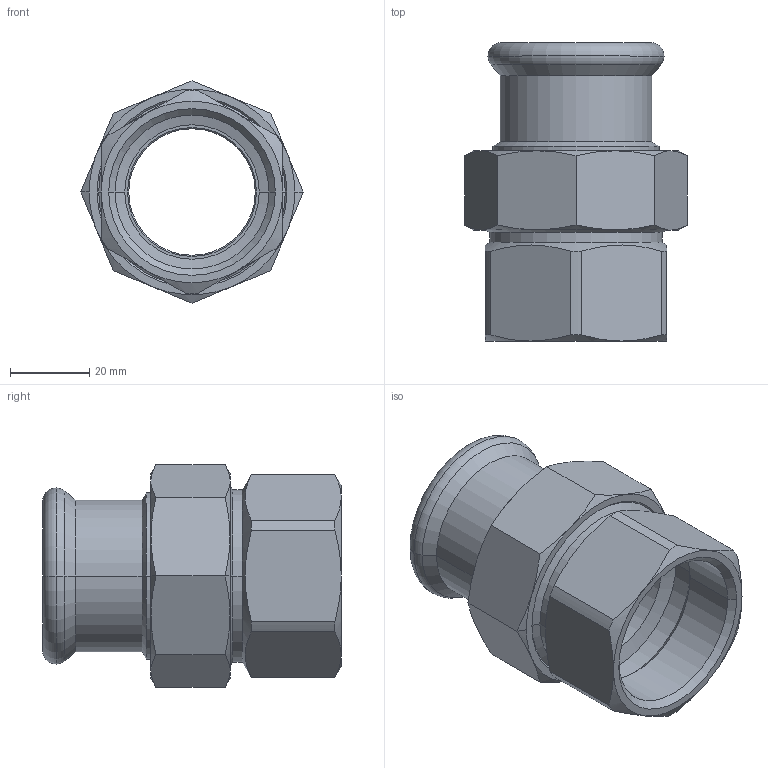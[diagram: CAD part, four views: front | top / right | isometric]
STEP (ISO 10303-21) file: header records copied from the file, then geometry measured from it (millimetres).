
FILE_DESCRIPTION(('CoCreate Modeling STEP Export'),'2;1');
FILE_NAME('C1444 35xRp1 1-4.stp','2014-11-12T16:46:17',(''),(''),'CoCreate Modeling STEP processor for AP214 (Solid Model)','CoCreate Modeling 17.00A 17-Jun-2010 (C) Parametric Technology GmbH','');
FILE_SCHEMA(('AUTOMOTIVE_DESIGN { 1 0 10303 214 1 1 1 1 }'));
Length unit declared in the file: millimetre
Products named in the file (2): C1444_35xRp1_1-4
Assembly tree (1 placements, depth 2):
  C1444_35xRp1_1-4
    C1444_35xRp1_1-4
Bounding box: 56.28 x 75.5 x 56.28 mm (x, y, z)
Volume: 48926.3 mm3; surface area: 26601.1 mm2
Topology: 1 solids, 1 shells, 112 faces, 242 edges, 138 vertices
Faces by surface type: cone 52, cylinder 30, plane 22, torus 8
Entity records: 4555 total; most frequent: CARTESIAN_POINT 2562, ORIENTED_EDGE 484, DIRECTION 278, EDGE_CURVE 242, VERTEX_POINT 138, EDGE_LOOP 120, FACE_OUTER_BOUND 112, ADVANCED_FACE 112
